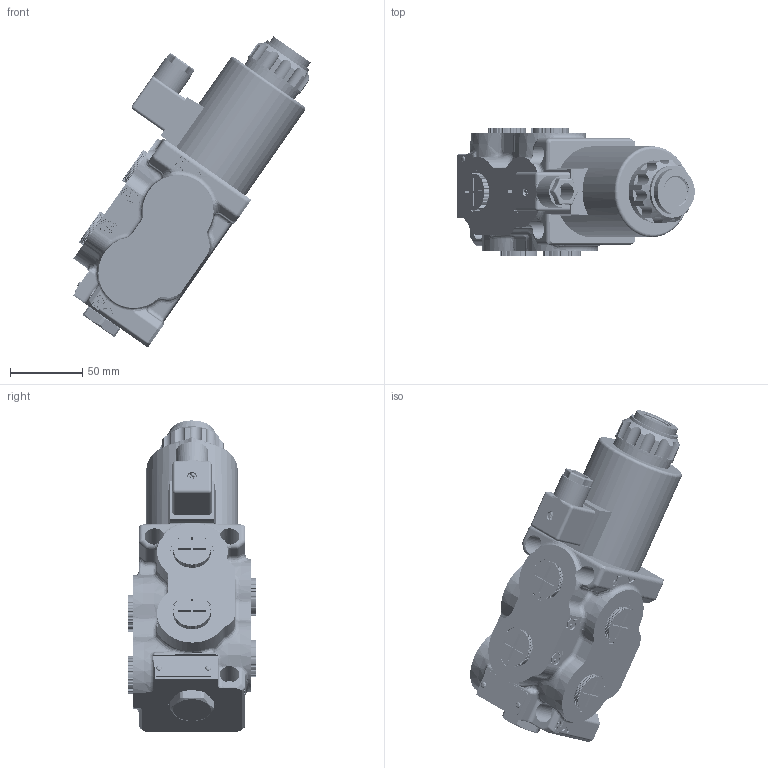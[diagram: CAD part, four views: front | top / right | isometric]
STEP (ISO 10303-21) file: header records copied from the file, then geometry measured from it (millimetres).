
FILE_DESCRIPTION(/* description */ (''),/* implementation_level */ '2;1');
FILE_NAME(/* name */ 'JYT-MH10WE10.stp',/* time_stamp */ '2024-01-17T13:59:29+08:00',/* author */ (''),/* organization */ (''),/* preprocessor_version */ 'ST-DEVELOPER v16.7',/* originating_system */ 'SIEMENS PLM Software NX 12.0',/* authorisation */ '');
FILE_SCHEMA (('AUTOMOTIVE_DESIGN { 1 0 10303 214 3 1 1 1 }'));
Length unit declared in the file: millimetre
Products named in the file (1): JYT-MH10WE10
Bounding box: 164.34 x 89 x 215.25 mm (x, y, z)
Volume: 844586 mm3; surface area: 180791.5 mm2
Topology: 19 solids, 20 shells, 2379 faces, 6388 edges, 4101 vertices
Faces by surface type: cylinder 1342, plane 549, bspline 331, cone 64, torus 51, sphere 40, extrusion 2
Full cylindrical faces by diameter (mm): 1.8 x4, 2.2 x2, 2.3 x2, 2.55 x20, 3 x41, 3.5 x1, 5 x1, 6 x3, 6.5 x1, 7.5 x1, 8.5 x3, 9.5 x1, 10 x2, 11 x1, 12.085 x1, 13.5 x3, 15 x1, 16 x6, 16.5 x1, 17 x1, 18 x36, 18.6 x20, 19.9 x1, 20.3 x2, 21 x2, 21.4 x1, 22 x1, 24 x13, 30 x6, 31.5 x3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
Entity records: 136987 total; most frequent: CARTESIAN_POINT 81207, ORIENTED_EDGE 11714, DIRECTION 11569, EDGE_CURVE 5857, AXIS2_PLACEMENT_3D 4736, VERTEX_POINT 3885, CIRCLE 2631, EDGE_LOOP 2619
